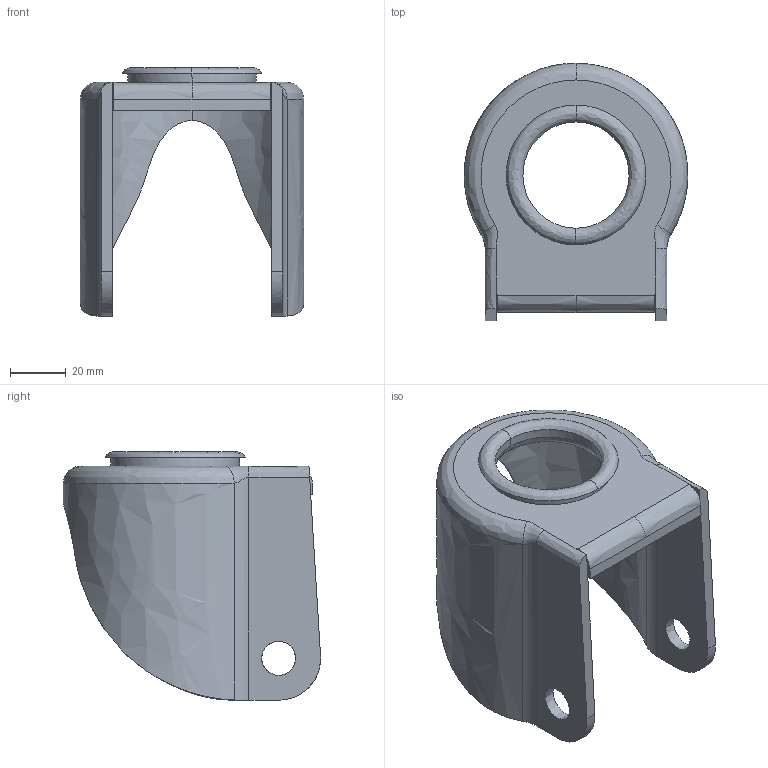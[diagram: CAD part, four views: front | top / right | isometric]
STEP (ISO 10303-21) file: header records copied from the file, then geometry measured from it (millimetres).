
FILE_DESCRIPTION (( 'STEP AP214' ), '1' );
FILE_NAME ('HP-100WJ-14.STEP', '2020-07-04T07:58:00', ( '' ), ( '' ), 'SwSTEP 2.0', 'SolidWorks 2010', '' );
FILE_SCHEMA (( 'AUTOMOTIVE_DESIGN' ));
Length unit declared in the file: millimetre
Products named in the file (1): HP-100WJ-14
Bounding box: 80 x 92 x 88.88 mm (x, y, z)
Volume: 74111.2 mm3; surface area: 40219.7 mm2
Topology: 1 solids, 1 shells, 62 faces, 195 edges, 136 vertices
Faces by surface type: bspline 46, plane 16
Entity records: 14392 total; most frequent: CARTESIAN_POINT 13101, ORIENTED_EDGE 390, EDGE_CURVE 195, B_SPLINE_CURVE_WITH_KNOTS 183, VERTEX_POINT 136, EDGE_LOOP 69, ADVANCED_FACE 62, FACE_OUTER_BOUND 62
